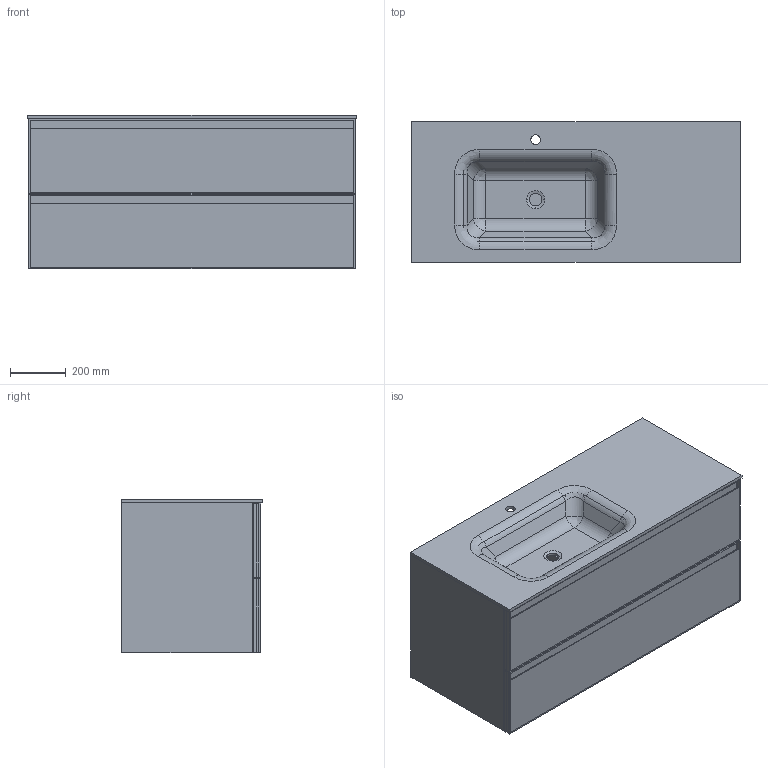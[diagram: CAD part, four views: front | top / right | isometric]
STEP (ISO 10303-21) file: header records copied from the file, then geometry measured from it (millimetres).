
FILE_DESCRIPTION (( 'STEP AP214' ), '1' );
FILE_NAME ('Boffi-1200.STEP', '2020-06-26T03:50:56', ( '' ), ( '' ), 'SwSTEP 2.0', 'SolidWorks 2020', '' );
FILE_SCHEMA (( 'AUTOMOTIVE_DESIGN' ));
Length unit declared in the file: millimetre
Products named in the file (1): Boffi-1200
Bounding box: 1180 x 505 x 552 mm (x, y, z)
Volume: 57692696.4 mm3; surface area: 9540717.8 mm2
Topology: 33 solids, 33 shells, 431 faces, 1035 edges, 676 vertices
Faces by surface type: plane 287, cylinder 127, bspline 14, cone 3
Entity records: 15052 total; most frequent: CARTESIAN_POINT 4416, DIRECTION 2087, ORIENTED_EDGE 2070, EDGE_CURVE 1035, LINE 775, VECTOR 775, VERTEX_POINT 676, AXIS2_PLACEMENT_3D 656
